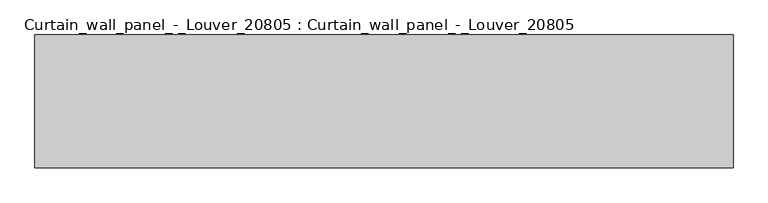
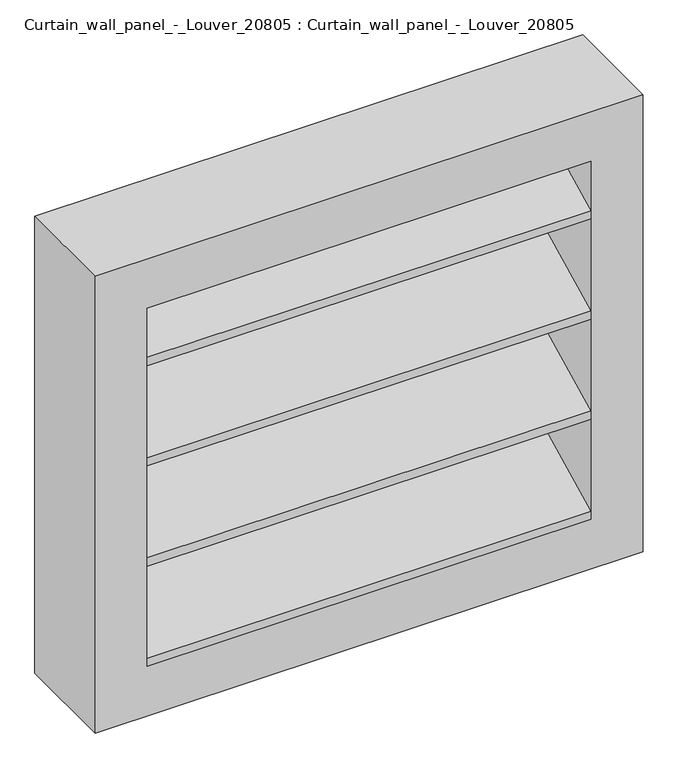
"""IFC4 building model written with IfcOpenShell, lengths in millimetres: plate geometry, Curtain_wall_panel_-_Louver_20805 : Curtain_wall_panel_-_Louver_20805."""

from ifc_helpers import new_model, si_unit, frame, origin, place, context, project, spatial, polyline, outline, extrude, source, transform, mapped, element, save


def curtain_wall_panel_louver_20805_curtain_wall_panel_louver_14332c5b(model_context):
    return source(origin(), model_context, "Body", "SweptSolid", [
        extrude(outline(polyline([(200.0, 605.2950441), (0.0, 505.910046), (0.0, 522.6599789), (200.0, 622.044977), (200.0, 605.2950441)])), frame((-425.0, 0.0, 0.0), z_axis=(1.0, 0.0, 0.0), x_axis=(0.0, 1.0, 0.0)), (0.0, 0.0, 1.0), 850.0),
        extrude(outline(polyline([(200.0, 402.3400211), (0.0, 302.955023), (0.0, 319.7049559), (200.0, 419.089954), (200.0, 402.3400211)])), frame((-425.0, 0.0, 0.0), z_axis=(1.0, 0.0, 0.0), x_axis=(0.0, 1.0, 0.0)), (0.0, 0.0, 1.0), 850.0),
        extrude(outline(polyline([(200.0, 808.2500672), (0.0, 708.8650691), (0.0, 725.6150019), (200.0, 825.0), (200.0, 808.2500672)])), frame((-425.0, 0.0, 0.0), z_axis=(1.0, 0.0, 0.0), x_axis=(0.0, 1.0, 0.0)), (0.0, 0.0, 1.0), 850.0),
        extrude(outline(polyline([(200.0, 199.3849981), (0.0, 100.0), (0.0, 116.7499328), (200.0, 216.1349309), (200.0, 199.3849981)])), frame((-425.0, 0.0, 0.0), z_axis=(1.0, 0.0, 0.0), x_axis=(0.0, 1.0, 0.0)), (0.0, 0.0, 1.0), 850.0),
        extrude(outline(polyline([(925.0, -525.0), (0.0, -525.0), (0.0, 525.0), (925.0, 525.0), (925.0, -525.0)]), holes=[polyline([(825.0, -425.0), (825.0, 425.0), (100.0, 425.0), (100.0, -425.0), (825.0, -425.0)])]), frame((0.0, 0.0, 0.0), z_axis=(0.0, 1.0, 0.0), x_axis=(0.0, 0.0, 1.0)), (0.0, 0.0, 1.0), 200.0),
    ])


if __name__ == "__main__":
    model = new_model("IFC4")
    model_context = context("Model", 3, world=origin())
    ifc_project = project(units=[si_unit("LENGTHUNIT", "METRE", prefix="MILLI")], contexts=[model_context])
    site = spatial("IfcSite", under=ifc_project)
    building = spatial("IfcBuilding", under=site)
    placement = place(None, origin())
    curtain_wall_panel_louver_20805_curtain_wall_panel_louver_shape = curtain_wall_panel_louver_20805_curtain_wall_panel_louver_14332c5b(model_context)
    element("IfcPlate", 1, ObjectType="Curtain_wall_panel_-_Louver_20805 : Curtain_wall_panel_-_Louver_20805", at=placement, inside=building, context=model_context, shape_type="MappedRepresentation", body=[
        mapped(curtain_wall_panel_louver_20805_curtain_wall_panel_louver_shape, transform((0.0, 0.0, 0.0), x_axis=(1.0, 0.0, 0.0), y_axis=(0.0, 1.0, 0.0), z_axis=(0.0, 0.0, 1.0))),
    ])
    save(model, "model.ifc")
